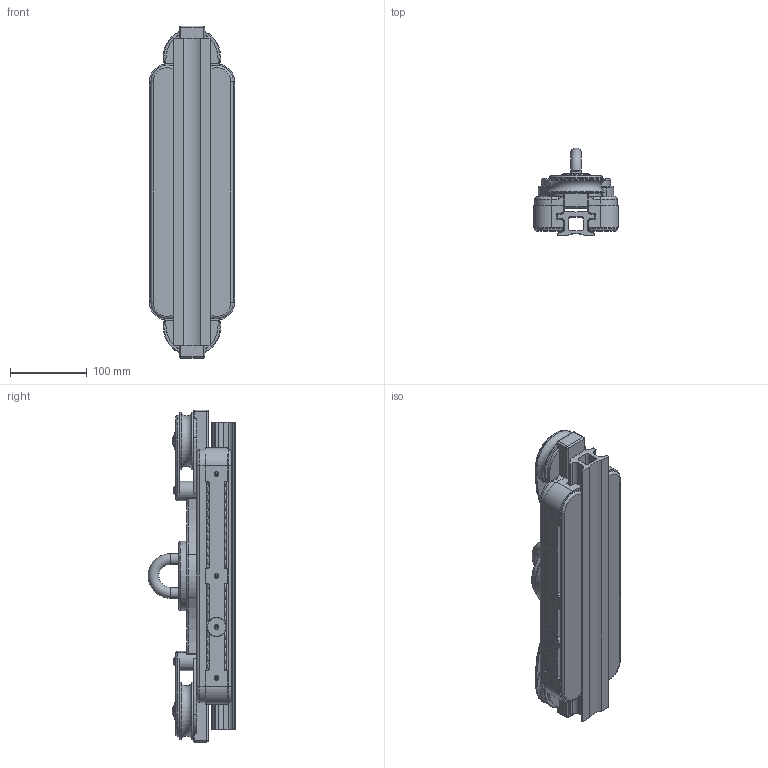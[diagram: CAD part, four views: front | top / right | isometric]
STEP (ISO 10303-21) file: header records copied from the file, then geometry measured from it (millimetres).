
FILE_DESCRIPTION(/* description */ (''),/* implementation_level */ '2;1');
FILE_NAME(/* name */ '\\SERVER2K12\Disegni CAD\Cad Library\3D - STP\Cars\4Race\614.222.stp',/* time_stamp */ '2018-05-16T14:31:15+02:00',/* author */ ('gianni'),/* organization */ (''),/* preprocessor_version */ 'ST-DEVELOPER v16.5',/* originating_system */ 'Autodesk Inventor 2017',/* authorisation */ '');
FILE_SCHEMA (('AUTOMOTIVE_DESIGN { 1 0 10303 214 3 1 1 }'));
Length unit declared in the file: millimetre
Products named in the file (1): 18051604
Bounding box: 111 x 114.29 x 432.5 mm (x, y, z)
Volume: 1882210.6 mm3; surface area: 468396.2 mm2
Topology: 226 solids, 226 shells, 1366 faces, 3664 edges, 2397 vertices
Faces by surface type: plane 482, sphere 346, cylinder 252, torus 150, cone 136
Full cylindrical faces by diameter (mm): 2.5 x4, 5.5 x8, 6.75 x4, 12 x2, 14 x8, 15.7 x6, 16 x4, 20 x8, 24.8 x2, 90 x1
Entity records: 39779 total; most frequent: CARTESIAN_POINT 7981, DIRECTION 6872, ORIENTED_EDGE 5888, EDGE_CURVE 2936, AXIS2_PLACEMENT_3D 2761, VERTEX_POINT 2274, EDGE_LOOP 1702, ADVANCED_FACE 1366
